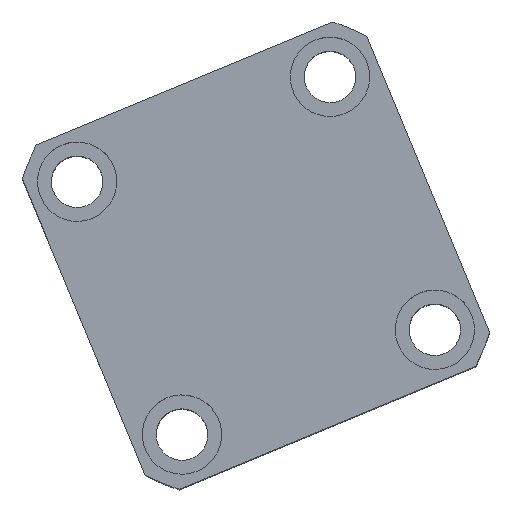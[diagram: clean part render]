
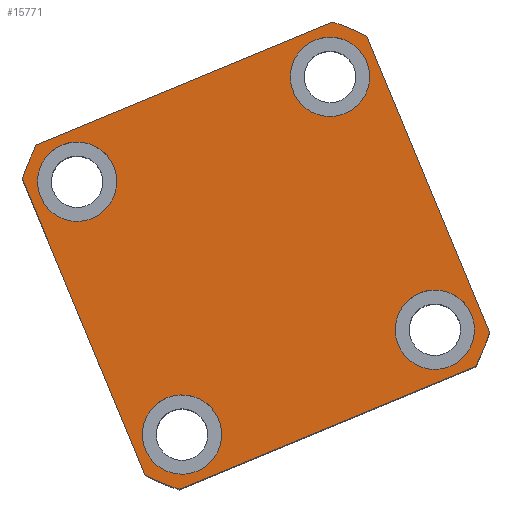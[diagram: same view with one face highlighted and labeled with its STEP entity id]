
A CAD part, top view. The second image highlights one B-rep face of the part: STEP entity #15771.
In plain terms, the highlighted planar face has unit normal (0, 0, 1) as drawn and (0, 0, -1) by its records, which use the part's own axes.
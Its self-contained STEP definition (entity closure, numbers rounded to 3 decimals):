
#486 = EDGE_CURVE ( 'NONE', #16289, #4606, #19307, .T. ) ;
#746 = VECTOR ( 'NONE', #20229, 1000. ) ;
#996 = DIRECTION ( 'NONE',  ( 1., 0., 0. ) ) ;
#1085 = DIRECTION ( 'NONE',  ( -1., 0., 0. ) ) ;
#1160 = AXIS2_PLACEMENT_3D ( 'NONE', #21763, #11462, #1085 ) ;
#1269 = VECTOR ( 'NONE', #17797, 1000. ) ;
#1346 = VERTEX_POINT ( 'NONE', #14821 ) ;
#1496 = CARTESIAN_POINT ( 'NONE',  ( -34.5, 34.5, 0. ) ) ;
#1627 = AXIS2_PLACEMENT_3D ( 'NONE', #1650, #13730, #3367 ) ;
#1650 = CARTESIAN_POINT ( 'NONE',  ( 0., 0., 0. ) ) ;
#1880 = VERTEX_POINT ( 'NONE', #12519 ) ;
#2002 = DIRECTION ( 'NONE',  ( 0., 0., -1. ) ) ;
#2177 = DIRECTION ( 'NONE',  ( 0., 0., 1. ) ) ;
#2729 = AXIS2_PLACEMENT_3D ( 'NONE', #1496, #13580, #3215 ) ;
#2819 = DIRECTION ( 'NONE',  ( 0., 0., -1. ) ) ;
#2867 = ORIENTED_EDGE ( 'NONE', *, *, #17782, .F. ) ;
#2986 = DIRECTION ( 'NONE',  ( 0., 0., -1. ) ) ;
#3215 = DIRECTION ( 'NONE',  ( -1., 0., 0. ) ) ;
#3367 = DIRECTION ( 'NONE',  ( 1., 0., 0. ) ) ;
#3480 = ORIENTED_EDGE ( 'NONE', *, *, #20212, .F. ) ;
#3690 = LINE ( 'NONE', #15504, #746 ) ;
#4014 = EDGE_CURVE ( 'NONE', #13455, #1346, #7520, .T. ) ;
#4117 = ORIENTED_EDGE ( 'NONE', *, *, #7521, .F. ) ;
#4267 = FACE_BOUND ( 'NONE', #12395, .T. ) ;
#4314 = VECTOR ( 'NONE', #10495, 1000. ) ;
#4379 = VERTEX_POINT ( 'NONE', #21261 ) ;
#4409 = CARTESIAN_POINT ( 'NONE',  ( -47., -40.435, 0. ) ) ;
#4442 = EDGE_CURVE ( 'NONE', #4379, #18003, #10491, .T. ) ;
#4606 = VERTEX_POINT ( 'NONE', #11101 ) ;
#4667 = EDGE_LOOP ( 'NONE', ( #20424, #4117 ) ) ;
#4817 = EDGE_CURVE ( 'NONE', #9326, #15830, #16387, .T. ) ;
#5084 = LINE ( 'NONE', #15026, #18306 ) ;
#5282 = AXIS2_PLACEMENT_3D ( 'NONE', #6286, #18348, #8030 ) ;
#5635 = EDGE_CURVE ( 'NONE', #18003, #15179, #14879, .T. ) ;
#5710 = CARTESIAN_POINT ( 'NONE',  ( -44.5, -34.5, 0. ) ) ;
#5756 = DIRECTION ( 'NONE',  ( 0., 0., -1. ) ) ;
#6286 = CARTESIAN_POINT ( 'NONE',  ( 0., 0., 0. ) ) ;
#6430 = CARTESIAN_POINT ( 'NONE',  ( 44.5, 34.5, 0. ) ) ;
#6475 = CARTESIAN_POINT ( 'NONE',  ( 40.435, 47., 0. ) ) ;
#6613 = ORIENTED_EDGE ( 'NONE', *, *, #17401, .F. ) ;
#7520 = CIRCLE ( 'NONE', #2729, 10. ) ;
#7521 = EDGE_CURVE ( 'NONE', #15830, #9326, #9756, .T. ) ;
#7547 = CARTESIAN_POINT ( 'NONE',  ( -47., 40.435, 0. ) ) ;
#8030 = DIRECTION ( 'NONE',  ( 1., 0., 0. ) ) ;
#8056 = PLANE ( 'NONE',  #15623 ) ;
#8242 = CARTESIAN_POINT ( 'NONE',  ( -34.5, -34.5, 0. ) ) ;
#8398 = EDGE_CURVE ( 'NONE', #12461, #10627, #21133, .T. ) ;
#8724 = CIRCLE ( 'NONE', #5282, 62. ) ;
#8730 = VERTEX_POINT ( 'NONE', #4409 ) ;
#8755 = CARTESIAN_POINT ( 'NONE',  ( -47., -47., 0. ) ) ;
#8885 = FACE_BOUND ( 'NONE', #13093, .T. ) ;
#8976 = EDGE_CURVE ( 'NONE', #8730, #1880, #8724, .T. ) ;
#9150 = EDGE_CURVE ( 'NONE', #4606, #16289, #12768, .T. ) ;
#9326 = VERTEX_POINT ( 'NONE', #20749 ) ;
#9441 = FACE_BOUND ( 'NONE', #12212, .T. ) ;
#9756 = CIRCLE ( 'NONE', #12190, 10. ) ;
#9803 = DIRECTION ( 'NONE',  ( 1., 0., 0. ) ) ;
#9881 = ORIENTED_EDGE ( 'NONE', *, *, #4014, .F. ) ;
#10144 = CARTESIAN_POINT ( 'NONE',  ( -34.5, -34.5, 0. ) ) ;
#10373 = CARTESIAN_POINT ( 'NONE',  ( 47., 40.435, 0. ) ) ;
#10491 = LINE ( 'NONE', #19534, #1269 ) ;
#10495 = DIRECTION ( 'NONE',  ( 1., 0., 0. ) ) ;
#10627 = VERTEX_POINT ( 'NONE', #13648 ) ;
#10755 = ORIENTED_EDGE ( 'NONE', *, *, #4442, .F. ) ;
#10834 = CIRCLE ( 'NONE', #17789, 10. ) ;
#11026 = VERTEX_POINT ( 'NONE', #7547 ) ;
#11079 = AXIS2_PLACEMENT_3D ( 'NONE', #10144, #22186, #11879 ) ;
#11101 = CARTESIAN_POINT ( 'NONE',  ( -24.5, -34.5, 0. ) ) ;
#11366 = DIRECTION ( 'NONE',  ( 0., 0., 1. ) ) ;
#11462 = DIRECTION ( 'NONE',  ( 0., 0., -1. ) ) ;
#11551 = CIRCLE ( 'NONE', #16803, 62. ) ;
#11879 = DIRECTION ( 'NONE',  ( -1., 0., 0. ) ) ;
#12190 = AXIS2_PLACEMENT_3D ( 'NONE', #12366, #2002, #14093 ) ;
#12212 = EDGE_LOOP ( 'NONE', ( #22200, #16801 ) ) ;
#12325 = AXIS2_PLACEMENT_3D ( 'NONE', #12542, #2177, #14273 ) ;
#12366 = CARTESIAN_POINT ( 'NONE',  ( 34.5, -34.5, 0. ) ) ;
#12395 = EDGE_LOOP ( 'NONE', ( #18503, #19232 ) ) ;
#12461 = VERTEX_POINT ( 'NONE', #6430 ) ;
#12519 = CARTESIAN_POINT ( 'NONE',  ( -40.435, -47., 0. ) ) ;
#12542 = CARTESIAN_POINT ( 'NONE',  ( 0., 0., 0. ) ) ;
#12768 = CIRCLE ( 'NONE', #11079, 10. ) ;
#12778 = EDGE_LOOP ( 'NONE', ( #19986, #10755, #3480, #16830, #13258, #14753, #16267, #2867 ) ) ;
#12902 = EDGE_CURVE ( 'NONE', #1880, #20538, #14051, .T. ) ;
#13070 = EDGE_CURVE ( 'NONE', #10627, #12461, #10834, .T. ) ;
#13093 = EDGE_LOOP ( 'NONE', ( #6613, #9881 ) ) ;
#13180 = CARTESIAN_POINT ( 'NONE',  ( -34.5, 34.5, 0. ) ) ;
#13258 = ORIENTED_EDGE ( 'NONE', *, *, #8976, .F. ) ;
#13354 = CARTESIAN_POINT ( 'NONE',  ( 34.5, 34.5, 0. ) ) ;
#13455 = VERTEX_POINT ( 'NONE', #15443 ) ;
#13460 = CARTESIAN_POINT ( 'NONE',  ( 44.5, -34.5, 0. ) ) ;
#13580 = DIRECTION ( 'NONE',  ( 0., 0., -1. ) ) ;
#13648 = CARTESIAN_POINT ( 'NONE',  ( 24.5, 34.5, 0. ) ) ;
#13730 = DIRECTION ( 'NONE',  ( 0., 0., 1. ) ) ;
#14051 = LINE ( 'NONE', #8755, #4314 ) ;
#14093 = DIRECTION ( 'NONE',  ( -1., 0., 0. ) ) ;
#14273 = DIRECTION ( 'NONE',  ( 1., 0., 0. ) ) ;
#14753 = ORIENTED_EDGE ( 'NONE', *, *, #16495, .F. ) ;
#14821 = CARTESIAN_POINT ( 'NONE',  ( -44.5, 34.5, 0. ) ) ;
#14879 = CIRCLE ( 'NONE', #12325, 62. ) ;
#14920 = DIRECTION ( 'NONE',  ( -1., 0., 0. ) ) ;
#15026 = CARTESIAN_POINT ( 'NONE',  ( -47., 47., 0. ) ) ;
#15079 = DIRECTION ( 'NONE',  ( -1., 0., 0. ) ) ;
#15179 = VERTEX_POINT ( 'NONE', #6475 ) ;
#15361 = CIRCLE ( 'NONE', #1627, 62. ) ;
#15443 = CARTESIAN_POINT ( 'NONE',  ( -24.5, 34.5, 0. ) ) ;
#15504 = CARTESIAN_POINT ( 'NONE',  ( -47., 47., 0. ) ) ;
#15623 = AXIS2_PLACEMENT_3D ( 'NONE', #16624, #20101, #9803 ) ;
#15745 = AXIS2_PLACEMENT_3D ( 'NONE', #8242, #18415, #20738 ) ;
#15771 = ADVANCED_FACE ( 'NONE', ( #22084, #4267, #8885, #9441, #17501 ), #8056, .F. ) ;
#15830 = VERTEX_POINT ( 'NONE', #13460 ) ;
#16060 = CARTESIAN_POINT ( 'NONE',  ( 34.5, 34.5, 0. ) ) ;
#16267 = ORIENTED_EDGE ( 'NONE', *, *, #18938, .F. ) ;
#16289 = VERTEX_POINT ( 'NONE', #5710 ) ;
#16387 = CIRCLE ( 'NONE', #1160, 10. ) ;
#16495 = EDGE_CURVE ( 'NONE', #11026, #8730, #5084, .T. ) ;
#16524 = AXIS2_PLACEMENT_3D ( 'NONE', #16060, #5756, #17804 ) ;
#16624 = CARTESIAN_POINT ( 'NONE',  ( 0., 0., 0. ) ) ;
#16754 = DIRECTION ( 'NONE',  ( 0., -1., 0. ) ) ;
#16801 = ORIENTED_EDGE ( 'NONE', *, *, #8398, .F. ) ;
#16803 = AXIS2_PLACEMENT_3D ( 'NONE', #21682, #11366, #996 ) ;
#16810 = CARTESIAN_POINT ( 'NONE',  ( 40.435, -47., 0. ) ) ;
#16830 = ORIENTED_EDGE ( 'NONE', *, *, #12902, .F. ) ;
#17401 = EDGE_CURVE ( 'NONE', #1346, #13455, #18572, .T. ) ;
#17501 = FACE_OUTER_BOUND ( 'NONE', #12778, .T. ) ;
#17676 = AXIS2_PLACEMENT_3D ( 'NONE', #13180, #2819, #14920 ) ;
#17782 = EDGE_CURVE ( 'NONE', #15179, #21310, #3690, .T. ) ;
#17789 = AXIS2_PLACEMENT_3D ( 'NONE', #13354, #2986, #15079 ) ;
#17797 = DIRECTION ( 'NONE',  ( 0., 1., 0. ) ) ;
#17804 = DIRECTION ( 'NONE',  ( -1., 0., 0. ) ) ;
#18003 = VERTEX_POINT ( 'NONE', #10373 ) ;
#18306 = VECTOR ( 'NONE', #16754, 1000. ) ;
#18348 = DIRECTION ( 'NONE',  ( 0., 0., 1. ) ) ;
#18415 = DIRECTION ( 'NONE',  ( 0., 0., -1. ) ) ;
#18503 = ORIENTED_EDGE ( 'NONE', *, *, #486, .F. ) ;
#18572 = CIRCLE ( 'NONE', #17676, 10. ) ;
#18938 = EDGE_CURVE ( 'NONE', #21310, #11026, #11551, .T. ) ;
#19232 = ORIENTED_EDGE ( 'NONE', *, *, #9150, .F. ) ;
#19307 = CIRCLE ( 'NONE', #15745, 10. ) ;
#19534 = CARTESIAN_POINT ( 'NONE',  ( 47., 47., 0. ) ) ;
#19986 = ORIENTED_EDGE ( 'NONE', *, *, #5635, .F. ) ;
#20101 = DIRECTION ( 'NONE',  ( 0., 0., 1. ) ) ;
#20212 = EDGE_CURVE ( 'NONE', #20538, #4379, #15361, .T. ) ;
#20229 = DIRECTION ( 'NONE',  ( -1., 0., 0. ) ) ;
#20424 = ORIENTED_EDGE ( 'NONE', *, *, #4817, .F. ) ;
#20538 = VERTEX_POINT ( 'NONE', #16810 ) ;
#20738 = DIRECTION ( 'NONE',  ( -1., 0., 0. ) ) ;
#20749 = CARTESIAN_POINT ( 'NONE',  ( 24.5, -34.5, 0. ) ) ;
#21133 = CIRCLE ( 'NONE', #16524, 10. ) ;
#21261 = CARTESIAN_POINT ( 'NONE',  ( 47., -40.435, 0. ) ) ;
#21310 = VERTEX_POINT ( 'NONE', #21521 ) ;
#21521 = CARTESIAN_POINT ( 'NONE',  ( -40.435, 47., 0. ) ) ;
#21682 = CARTESIAN_POINT ( 'NONE',  ( 0., 0., 0. ) ) ;
#21763 = CARTESIAN_POINT ( 'NONE',  ( 34.5, -34.5, 0. ) ) ;
#22084 = FACE_BOUND ( 'NONE', #4667, .T. ) ;
#22186 = DIRECTION ( 'NONE',  ( 0., 0., -1. ) ) ;
#22200 = ORIENTED_EDGE ( 'NONE', *, *, #13070, .F. ) ;
